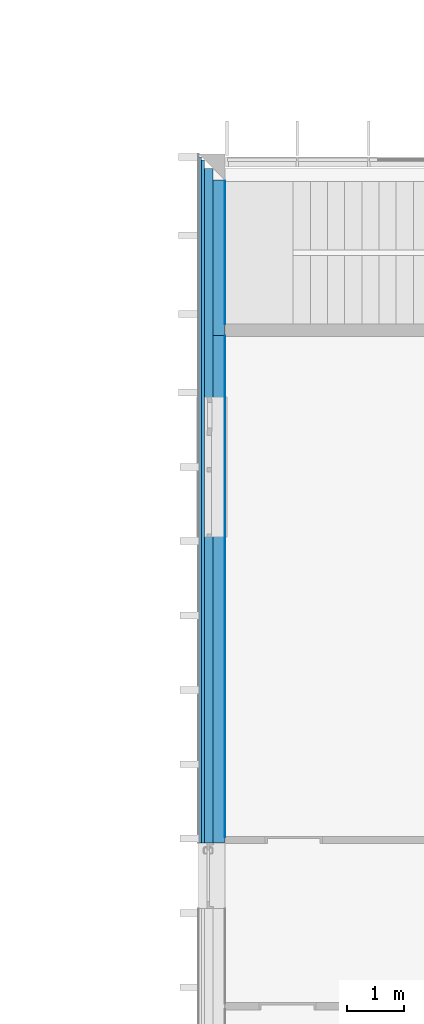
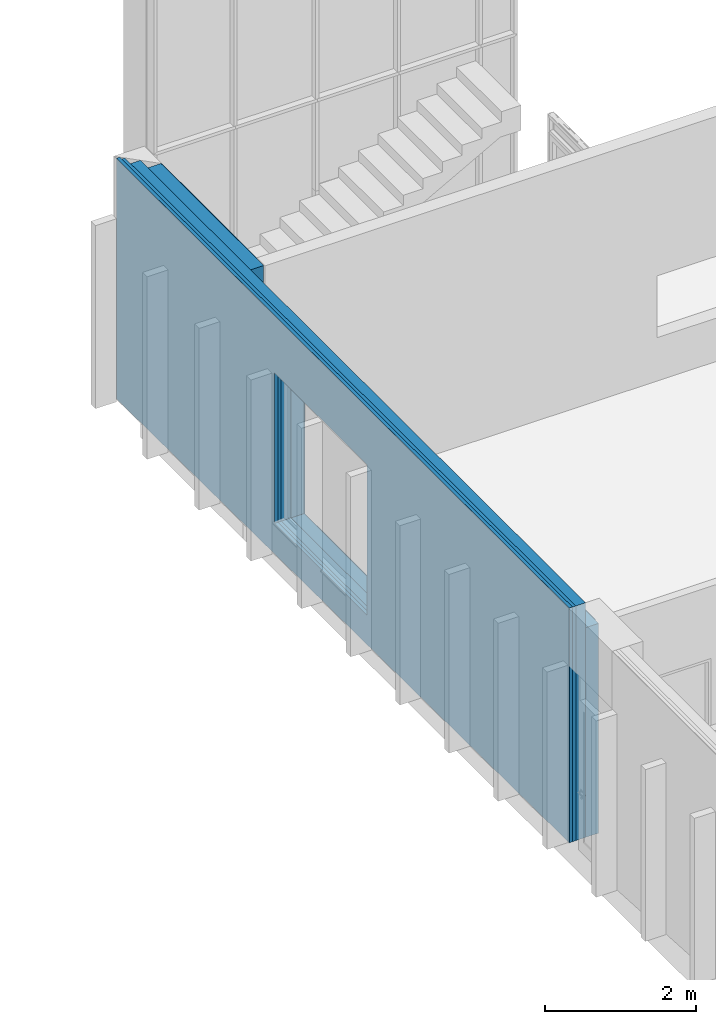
# One storey, part 63 of 65: 5 building element parts, 1 opening, 1 element without a shape of its own.
"""IFC2X3 building model written with IfcOpenShell, lengths in millimetres."""

import ifcopenshell
import ifcopenshell.guid

model = None  # the IFC model being written
_history = None  # IfcOwnerHistory: only IFC2X3 demands one
_inside = {}  # id of a spatial element -> (the spatial element, [elements in it])
_under = {}  # id of a project, library or spatial element -> (it, [spatial elements below it])
_declared = {}  # id of a project -> (the project, [libraries it declares])
_typed = {}  # id of a type object -> (the type object, [elements of that type])
_made_of = {}  # id of a material, layer set ... -> (it, [elements and type objects made of it])


def new_model(schema):
    """Start an empty IFC model of exactly this schema.

    Asked for "IFC4X3", IfcOpenShell would pick the latest addendum, in which some entities
    have other attributes; the version numbers below select the first issue.
    IFC2X3 requires an IfcOwnerHistory on every rooted entity: one is made here for all.
    """
    global model, _history
    if schema == "IFC4X3":
        model = ifcopenshell.file(schema_version=(4, 3, 0, 0))
    else:
        model = ifcopenshell.file(schema=schema)
    _inside.clear()
    _under.clear()
    _declared.clear()
    _typed.clear()
    _made_of.clear()
    _history = None
    if model.schema == "IFC2X3":
        org = make("IfcOrganization", Name="unknown")
        user = make(
            "IfcPersonAndOrganization",
            ThePerson=make("IfcPerson", FamilyName="unknown"),
            TheOrganization=org,
        )
        app = make(
            "IfcApplication",
            ApplicationDeveloper=org,
            Version="unknown",
            ApplicationFullName="unknown",
            ApplicationIdentifier="unknown",
        )
        _history = make(
            "IfcOwnerHistory",
            OwningUser=user,
            OwningApplication=app,
            ChangeAction="ADDED",
            CreationDate=0,
        )
    return model


def make(cls, **values):
    """One entity of the class cls with the attributes given. An attribute that is None is left unset."""
    return model.create_entity(
        cls, **{name: value for name, value in values.items() if value is not None}
    )


def entity(cls, *values):
    """Any entity or typed value of the class cls, its attributes in the order of the schema. None: left unset."""
    e = model.create_entity(cls)
    for i, value in enumerate(values):
        if value is not None:
            e[i] = value
    return e


def rooted(cls, **values):
    """An entity with a GlobalId (a new one), such as an element, a storey or a relation."""
    return make(cls, GlobalId=ifcopenshell.guid.new(), OwnerHistory=_history, **values)


def si_unit(unit_type, name, prefix=None):
    """IfcSIUnit, for example si_unit("LENGTHUNIT", "METRE", prefix="MILLI")."""
    return make("IfcSIUnit", UnitType=unit_type, Prefix=prefix, Name=name)


def converted_unit(unit_type, name, factor, base, dimensions=None, offset=None):
    """IfcConversionBasedUnit, such as the inch: factor (a typed value) times the base unit."""
    return make(
        "IfcConversionBasedUnit"
        if offset is None
        else "IfcConversionBasedUnitWithOffset",
        ConversionOffset=offset,
        Dimensions=None
        if dimensions is None
        else entity("IfcDimensionalExponents", *dimensions),
        UnitType=unit_type,
        Name=name,
        ConversionFactor=make(
            "IfcMeasureWithUnit", ValueComponent=factor, UnitComponent=base
        ),
    )


def derived_unit(unit_type, elements):
    """IfcDerivedUnit: a product of units, each with its exponent."""
    return make(
        "IfcDerivedUnit",
        Elements=[
            make("IfcDerivedUnitElement", Unit=unit, Exponent=power)
            for unit, power in elements
        ],
        UnitType=unit_type,
    )


def money_unit(currency):
    """IfcMonetaryUnit."""
    return make("IfcMonetaryUnit", Currency=currency)


def assignment(units):
    """IfcUnitAssignment: the units of a project."""
    return None if units is None else make("IfcUnitAssignment", Units=units)


def point(xyz):
    """IfcCartesianPoint."""
    return None if xyz is None else make("IfcCartesianPoint", Coordinates=xyz)


def direction(xyz):
    """IfcDirection."""
    return None if xyz is None else make("IfcDirection", DirectionRatios=xyz)


def frame(location, z_axis=None, x_axis=None):
    """IfcAxis2Placement3D, a coordinate frame: its origin and axes. An axis left out is left unset."""
    return make(
        "IfcAxis2Placement3D",
        Location=point(location),
        Axis=direction(z_axis),
        RefDirection=direction(x_axis),
    )


def frame_2d(location, x_axis=None):
    """IfcAxis2Placement2D, a coordinate frame in the plane: its origin and x axis."""
    return make(
        "IfcAxis2Placement2D", Location=point(location), RefDirection=direction(x_axis)
    )


def origin_with_axes():
    """The frame at (0, 0, 0) with the z axis (0, 0, 1) and the x axis (1, 0, 0) written out."""
    return frame((0.0, 0.0, 0.0), z_axis=(0.0, 0.0, 1.0), x_axis=(1.0, 0.0, 0.0))


def origin_2d_with_axis():
    """The frame at (0, 0) in the plane with the x axis (1, 0) written out."""
    return frame_2d((0.0, 0.0), x_axis=(1.0, 0.0))


def place(relative_to, where):
    """IfcLocalPlacement: puts the frame where relative to a parent placement (None: the world)."""
    return make(
        "IfcLocalPlacement", PlacementRelTo=relative_to, RelativePlacement=where
    )


def context(
    kind, dimensions, precision=None, world=None, true_north=None, identifier=None
):
    """IfcGeometricRepresentationContext, for example the 3D "Model" context."""
    return make(
        "IfcGeometricRepresentationContext",
        ContextIdentifier=identifier,
        ContextType=kind,
        CoordinateSpaceDimension=dimensions,
        Precision=precision,
        WorldCoordinateSystem=world,
        TrueNorth=true_north,
    )


def subcontext(parent, identifier, kind, view, scale=None):
    """IfcGeometricRepresentationSubContext, for example "Body" below "Model"."""
    return make(
        "IfcGeometricRepresentationSubContext",
        ContextIdentifier=identifier,
        ContextType=kind,
        ParentContext=parent,
        TargetScale=scale,
        TargetView=view,
    )


def project(units=None, contexts=None):
    """IfcProject with its units and contexts."""
    return rooted(
        "IfcProject",
        Name="project",
        RepresentationContexts=contexts,
        UnitsInContext=assignment(units),
    )


def spatial(cls, under=None, at=None, **own):
    """A site, building, storey or space (cls), placed at a placement, below another one or the project."""
    s = rooted(cls, ObjectPlacement=at, **own)
    if under is not None:
        _under.setdefault(under.id(), (under, []))[1].append(s)
    return s


def polyline(points):
    """IfcPolyline through the points."""
    return make("IfcPolyline", Points=[point(p) for p in points])


def profile(cls, at=None, kind="AREA", **sizes):
    """A parametric profile (cls). Its sizes go by their IFC names, for example OverallWidth=200.0."""
    return make(cls, ProfileType=kind, Position=at, **sizes)


def rectangle(**sizes):
    """IfcRectangleProfileDef."""
    return profile("IfcRectangleProfileDef", **sizes)


def outline(outer, holes=None, kind="AREA"):
    """IfcArbitraryClosedProfileDef: a profile drawn as a closed curve; with holes, ...WithVoids."""
    if holes is None:
        return make("IfcArbitraryClosedProfileDef", ProfileType=kind, OuterCurve=outer)
    return make(
        "IfcArbitraryProfileDefWithVoids",
        ProfileType=kind,
        OuterCurve=outer,
        InnerCurves=holes,
    )


def extrude(swept, where, along, depth):
    """IfcExtrudedAreaSolid: the profile swept, set in the frame where, extruded along a direction by depth."""
    return make(
        "IfcExtrudedAreaSolid",
        SweptArea=swept,
        Position=where,
        ExtrudedDirection=direction(along),
        Depth=depth,
    )


def boolean(op, a, b):
    """IfcBooleanResult of two solids."""
    return make("IfcBooleanResult", Operator=op, FirstOperand=a, SecondOperand=b)


def faces_of(points, faces, orient=None, outer=None):
    """IfcFace entities. A face is a list of loops; a loop is a list of indices into points, from 0.

    orient and outer hold one flag for each loop. By default every Orientation is true, the
    first loop of a face is its IfcFaceOuterBound and the others are IfcFaceBound.
    """
    made = []
    for i, loops in enumerate(faces):
        bounds = []
        for j, loop in enumerate(loops):
            is_outer = j == 0 if outer is None else outer[i][j]
            bounds.append(
                make(
                    "IfcFaceOuterBound" if is_outer else "IfcFaceBound",
                    Bound=make("IfcPolyLoop", Polygon=[points[k] for k in loop]),
                    Orientation=True if orient is None else orient[i][j],
                )
            )
        made.append(make("IfcFace", Bounds=bounds))
    return made


def faceted_brep(points, faces, orient=None, outer=None, voids=None):
    """IfcFacetedBrep: a solid bounded by flat faces; with voids (closed shells), ...WithVoids."""
    shared = [point(p) for p in points]
    hull = make("IfcClosedShell", CfsFaces=faces_of(shared, faces, orient, outer))
    if voids is None:
        return make("IfcFacetedBrep", Outer=hull)
    return make(
        "IfcFacetedBrepWithVoids",
        Outer=hull,
        Voids=[
            make(cls, CfsFaces=faces_of(shared, fs, o, b)) for cls, fs, o, b in voids
        ],
    )


def shape(context_of_items, identifier, shape_type, items):
    """IfcShapeRepresentation: the items that make up one representation, for example the "Body"."""
    return make(
        "IfcShapeRepresentation",
        ContextOfItems=context_of_items,
        RepresentationIdentifier=identifier,
        RepresentationType=shape_type,
        Items=items,
    )


def material(Name=None, Category=None):
    """IfcMaterial."""
    return make("IfcMaterial", Name=Name, Category=Category)


def made_of(thing, what):
    """Note that an element or type object is made of a material, layer set ...; save() writes the relation."""
    if what is not None:
        _made_of.setdefault(what.id(), (what, []))[1].append(thing)
    return thing


def type_object(cls, material=None, **own):
    """A type object (cls), such as IfcWallType, which elements share."""
    return made_of(rooted(cls, **own), material)


def element(
    cls,
    number,
    at=None,
    inside=None,
    cuts=None,
    type_object=None,
    material=None,
    context=None,
    identifier="Body",
    shape_type=None,
    held_by="IfcProductDefinitionShape",
    body=None,
    shapes=None,
    **own,
):
    """One element of the class cls, such as IfcWall. Its Tag is "e" and its number.

    at: its placement. inside: the storey or other place that contains it. cuts: it is an
    opening in that element (IfcRelVoidsElement). A single representation is given by context,
    identifier, shape_type and body (its items); several are given by shapes. held_by: the class
    of the entity that holds the representations. save() writes the other relations.
    """
    e = rooted(cls, Tag="e%d" % number, ObjectPlacement=at, **own)
    if body is not None:
        shapes = [shape(context, identifier, shape_type, body)]
    if shapes is not None:
        e.Representation = make(held_by, Representations=shapes)
    if inside is not None:
        _inside.setdefault(inside.id(), (inside, []))[1].append(e)
    if cuts is not None:
        rooted(
            "IfcRelVoidsElement", RelatingBuildingElement=cuts, RelatedOpeningElement=e
        )
    if type_object is not None:
        _typed.setdefault(type_object.id(), (type_object, []))[1].append(e)
    return made_of(e, material)


def aggregate(whole, parts):
    """IfcRelAggregates: a whole, such as a stair, and the parts it consists of."""
    return rooted("IfcRelAggregates", RelatingObject=whole, RelatedObjects=parts)


def save(model, path):
    """Write the relations noted so far, then the file.

    IfcRelAggregates (storeys below a building ...), IfcRelContainedInSpatialStructure (elements
    in a storey), IfcRelDefinesByType, IfcRelAssociatesMaterial and IfcRelDeclares: one each for
    every whole, place, type object, material and project.
    """
    for whole, parts in _under.values():
        aggregate(whole, parts)
    for where, things in _inside.values():
        rooted(
            "IfcRelContainedInSpatialStructure",
            RelatedElements=things,
            RelatingStructure=where,
        )
    for kind, things in _typed.values():
        rooted("IfcRelDefinesByType", RelatedObjects=things, RelatingType=kind)
    for what, things in _made_of.values():
        rooted("IfcRelAssociatesMaterial", RelatedObjects=things, RelatingMaterial=what)
    for by, libraries in _declared.values():
        rooted("IfcRelDeclares", RelatingContext=by, RelatedDefinitions=libraries)
    model.write(path)


model = new_model("IFC2X3")

# Units and contexts
model_context = context("Model", 3, precision=0.01, world=origin_with_axes(), true_north=direction((0.0, 1.0)))
body_context = subcontext(model_context, "Body", "Model", "MODEL_VIEW")
ifc_project = project(units=[si_unit("LENGTHUNIT", "METRE", prefix="MILLI"), si_unit("AREAUNIT", "SQUARE_METRE"), si_unit("VOLUMEUNIT", "CUBIC_METRE"), converted_unit("PLANEANGLEUNIT", "DEGREE", entity("IfcPlaneAngleMeasure", 0.0174532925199), si_unit("PLANEANGLEUNIT", "RADIAN"), dimensions=[0, 0, 0, 0, 0, 0, 0]), si_unit("SOLIDANGLEUNIT", "STERADIAN"), money_unit("EUR"), converted_unit("TIMEUNIT", "Year", entity("IfcTimeMeasure", 31556926.0), si_unit("TIMEUNIT", "SECOND"), dimensions=[0, 0, 1, 0, 0, 0, 0]), si_unit("MASSUNIT", "GRAM", prefix="KILO"), si_unit("THERMODYNAMICTEMPERATUREUNIT", "DEGREE_CELSIUS"), si_unit("LUMINOUSINTENSITYUNIT", "LUMEN"), si_unit("ENERGYUNIT", "JOULE", prefix="MEGA"), derived_unit("THERMALCONDUCTANCEUNIT", [(si_unit("POWERUNIT", "WATT"), 1), (si_unit("LENGTHUNIT", "METRE"), -1), (si_unit("THERMODYNAMICTEMPERATUREUNIT", "KELVIN"), -1)]), derived_unit("SPECIFICHEATCAPACITYUNIT", [(si_unit("ENERGYUNIT", "JOULE"), 1), (si_unit("MASSUNIT", "GRAM", prefix="KILO"), -1), (si_unit("THERMODYNAMICTEMPERATUREUNIT", "KELVIN"), -1)]), derived_unit("MASSDENSITYUNIT", [(si_unit("MASSUNIT", "GRAM", prefix="KILO"), 1), (si_unit("VOLUMEUNIT", "CUBIC_METRE"), -1)])], contexts=[model_context])

# Site, building, storey
site_placement = place(None, origin_with_axes())
site = spatial("IfcSite", under=ifc_project, at=site_placement, Name="Puškini 31, Narva", CompositionType="ELEMENT")
building_placement = place(site_placement, origin_with_axes())
building = spatial("IfcBuilding", under=site, at=building_placement, Name="Narva Riigigümnaasium", CompositionType="ELEMENT")
storey_placement = place(building_placement, frame((0.0, 0.0, -1320.0), z_axis=(0.0, 0.0, 1.0), x_axis=(1.0, 0.0, 0.0)))
storey = spatial("IfcBuildingStorey", under=building, at=storey_placement, Name="1.korrus -1.32", CompositionType="ELEMENT", Elevation=-1320.0)

# Wall, opening, building element parts
wall_type = type_object("IfcWallType", Name="G-VS-01 468", PredefinedType="NOTDEFINED")
wall_placement = place(storey_placement, frame((22399.9999985, 183110.149991, 0.0), z_axis=(0.0, 0.0, 1.0), x_axis=(0.0, 1.0, 0.0)))
wall = element("IfcWall", 1, at=wall_placement, inside=storey, type_object=wall_type, Name="Välissein")
opening_placement = place(wall_placement, frame((6575.0, 0.0, 600.0), z_axis=(0.0, 0.0, 1.0), x_axis=(1.0, 0.0, 0.0)))
element("IfcOpeningElement", 2, at=opening_placement, cuts=wall, Name="G-A-37", context=body_context, shape_type="SweptSolid", body=[
    extrude(rectangle(XDim=2450.0, YDim=2430.0, at=origin_2d_with_axis()), frame((0.0, 308.0, 1215.0), z_axis=(0.0, 1.0, 0.0), x_axis=(-1.0, 0.0, 0.0)), (0.0, 0.0, -1.0), 786.0),
    extrude(rectangle(XDim=2450.0, YDim=2430.0, at=origin_2d_with_axis()), frame((0.0, 308.0, 1215.0), z_axis=(0.0, -1.0, 0.0), x_axis=(-1.0, 0.0, 0.0)), (0.0, 0.0, -1.0), 618.0),
])
ifc_material_1 = material(Name="Salto-siseviimistlus-seinad")
building_element_part_1_placement = place(wall_placement, origin_with_axes())
building_element_part_1 = element("IfcBuildingElementPart", 3, at=building_element_part_1_placement, material=ifc_material_1, Name="Salto-siseviimistlus-seinad", context=body_context, shape_type="CSG", body=[
    boolean("DIFFERENCE", boolean("DIFFERENCE", boolean("DIFFERENCE", boolean("DIFFERENCE", boolean("DIFFERENCE", boolean("DIFFERENCE", boolean("DIFFERENCE", extrude(outline(polyline([(0.0, -10.0), (12047.8500085, -10.0), (12047.8500085, 0.0), (0.0, 0.0), (0.0, -10.0)])), origin_with_axes(), (0.0, 0.0, 1.0), 3960.0), faceted_brep([(11579.8500085, 1.96511962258e-06, 73.9043257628), (11579.8500085, 0.0, 3960.0), (12047.8500085, 0.0, 3960.0), (12047.8500085, 0.0, 0.0), (0.0, 0.0, 0.0), (0.0, 0.0, 3960.0), (9069.85000856, 0.0, 3960.0), (9069.85000856, 1.50284762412e-06, 93.7241299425), (100.0, 8.56701376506e-08, 164.553082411), (8869.85000856, 1.46910750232e-06, 95.3033972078), (8869.85000856, 1.53953294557e-07, 3555.0), (100.0, 1.50116008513e-06, 3555.0), (11579.8500085, -10.0, 73.9043257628), (11579.8500085, -10.0, 3960.0), (12047.8500085, -10.0, 3960.0), (12047.8500085, -10.0, 0.0), (0.0, -10.0, 0.0), (0.0, -10.0, 3960.0), (9069.85000856, -10.0, 3960.0), (9069.85000856, -10.0, 93.7241299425), (100.0, -10.0, 164.553082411), (8869.85000856, -10.0, 95.3033972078), (8869.85000856, -10.0, 3555.0), (100.0, -10.0, 3555.0)], [[[0, 1, 2, 3, 4, 5, 6, 7], [8, 9, 10, 11]], [[12, 13, 1, 0]], [[1, 13, 14, 2]], [[14, 15, 3, 2]], [[15, 16, 4, 3]], [[5, 4, 16, 17]], [[18, 6, 5, 17]], [[6, 18, 19, 7]], [[19, 12, 0, 7]], [[20, 21, 9, 8]], [[21, 22, 10, 9]], [[22, 23, 11, 10]], [[23, 20, 8, 11]], [[19, 18, 17, 16, 15, 14, 13, 12], [20, 23, 22, 21]]])), faceted_brep([(0.0, 0.0, 3555.0), (8869.85000856, 1.53953294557e-07, 3555.0), (8869.85000856, 0.0, 3959.99999949), (0.0, 0.0, 3960.0), (0.0, 199.999955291, 3555.0), (8869.85000856, 199.999955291, 3555.0), (8869.85000856, 199.999955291, 3960.0), (0.0, 200.0, 3960.0)], [[[0, 1, 2, 3]], [[0, 4, 5, 1]], [[6, 2, 1, 5]], [[2, 6, 7, 3]], [[4, 0, 3, 7]], [[5, 4, 7, 6]]])), faceted_brep([(11589.8500085, 200.0, 3960.0), (11589.8500085, 0.0, 3960.0), (12047.8500085, 0.0, 3960.0), (12047.8500085, 200.0, 3960.0), (11589.8500085, 1.96515870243e-06, 73.8253623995), (11589.8500085, 199.999999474, 73.8253623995), (100.0, 8.56701376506e-08, 164.553082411), (0.0, 0.0, 165.342716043), (0.0, 0.0, 0.0), (12047.8500085, 0.0, 0.0), (11579.8500085, 1.96511962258e-06, 73.9043257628), (9069.85000856, 1.50284762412e-06, 93.7241299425), (8869.85000856, 1.46910750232e-06, 95.3033972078), (12047.8500085, 200.0, 0.0), (0.0, 200.0, 0.0), (0.0, 199.999997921, 165.342716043)], [[[0, 1, 2, 3]], [[4, 1, 0, 5]], [[6, 7, 8, 9, 2, 1, 4, 10, 11, 12]], [[2, 9, 13, 3]], [[5, 0, 3, 13, 14, 15]], [[10, 4, 5, 15, 7, 6, 12, 11]], [[7, 15, 14, 8]], [[9, 8, 14, 13]]])), faceted_brep([(11789.8500085, 350.0, 3960.0), (11789.8500085, 200.0, 3960.0), (12047.8500085, 200.0, 3960.0), (12047.8500085, 350.0, 3960.0), (11789.8500085, 199.999999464, 72.2460951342), (11789.8500085, 350.0, 72.2460951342), (11589.8500085, 199.999999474, 73.8253623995), (0.0, 199.999997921, 165.342716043), (0.0, 200.0, 0.0), (12047.8500085, 200.0, 0.0), (12047.8500085, 350.0, 0.0), (0.0, 350.0, 0.0), (0.0, 350.0, 165.342716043)], [[[0, 1, 2, 3]], [[4, 1, 0, 5]], [[6, 7, 8, 9, 2, 1, 4]], [[2, 9, 10, 3]], [[5, 0, 3, 10, 11, 12]], [[6, 4, 5, 12, 7]], [[7, 12, 11, 8]], [[9, 8, 11, 10]]])), faceted_brep([(11939.8500085, 400.0, 3960.0), (11939.8500085, 350.0, 3960.0), (12047.8500085, 350.0, 3960.0), (12047.8500085, 400.0, 3960.0), (11939.8500085, 350.0, 71.0616446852), (11939.8500085, 399.999996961, 71.0616446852), (11789.8500085, 350.0, 72.2460951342), (0.0, 350.0, 165.342716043), (0.0, 350.0, 0.0), (12047.8500085, 350.0, 0.0), (12047.8500085, 400.0, 0.0), (0.0, 400.0, 0.0), (0.0, 400.0, 165.342716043)], [[[0, 1, 2, 3]], [[4, 1, 0, 5]], [[6, 7, 8, 9, 2, 1, 4]], [[2, 9, 10, 3]], [[5, 0, 3, 10, 11, 12]], [[6, 4, 5, 12, 7]], [[7, 12, 11, 8]], [[9, 8, 11, 10]]])), faceted_brep([(11989.8500085, 450.0, 3960.0), (11989.8500085, 400.0, 3960.0), (12047.8500085, 400.0, 3960.0), (12047.8500085, 450.0, 3960.0), (11989.8500085, 399.99999696, 70.6668278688), (11989.8500085, 449.999999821, 70.6668278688), (0.0, 400.0, 165.342716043), (0.0, 400.0, 0.0), (12047.8500085, 400.0, 0.0), (12047.8500085, 450.0, 0.0), (0.0, 450.0, 0.0), (0.0, 450.0, 165.342716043)], [[[0, 1, 2, 3]], [[4, 1, 0, 5]], [[4, 6, 7, 8, 2, 1]], [[2, 8, 9, 3]], [[5, 0, 3, 9, 10, 11]], [[6, 4, 5, 11]], [[6, 11, 10, 7]], [[8, 7, 10, 9]]])), faceted_brep([(12039.8500085, 458.0, 3960.0), (12039.8500085, 450.0, 3960.0), (12047.8500085, 450.0, 3960.0), (12047.8500085, 458.0, 3960.0), (12039.8500085, 449.999999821, 70.2720110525), (12039.8500085, 458.0, 70.2720110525), (0.0, 450.0, 165.342716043), (0.0, 450.0, 0.0), (12047.8500085, 450.0, 0.0), (12047.8500085, 458.0, 0.0), (0.0, 458.0, 0.0), (0.0, 458.0, 165.342716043)], [[[0, 1, 2, 3]], [[4, 1, 0, 5]], [[4, 6, 7, 8, 2, 1]], [[2, 8, 9, 3]], [[5, 0, 3, 9, 10, 11]], [[6, 4, 5, 11]], [[6, 11, 10, 7]], [[8, 7, 10, 9]]])),
])
ifc_material_2 = material(Name="Betoon element")
building_element_part_2_placement = place(wall_placement, origin_with_axes())
building_element_part_2 = element("IfcBuildingElementPart", 4, at=building_element_part_2_placement, material=ifc_material_2, Name="Betoon element", context=body_context, shape_type="CSG", body=[
    boolean("DIFFERENCE", boolean("DIFFERENCE", boolean("DIFFERENCE", boolean("DIFFERENCE", boolean("DIFFERENCE", boolean("DIFFERENCE", boolean("DIFFERENCE", extrude(outline(polyline([(0.0, 0.0), (12047.8500085, 0.0), (12047.8500085, 200.0), (0.0, 200.0), (0.0, 0.0)])), origin_with_axes(), (0.0, 0.0, 1.0), 3960.0), faceted_brep([(11579.8500085, 1.96511962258e-06, 73.9043257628), (11579.8500085, 0.0, 3960.0), (12047.8500085, 0.0, 3960.0), (12047.8500085, 0.0, 0.0), (0.0, 0.0, 0.0), (0.0, 0.0, 3960.0), (9069.85000856, 0.0, 3960.0), (9069.85000856, 1.50284762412e-06, 93.7241299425), (100.0, 8.56701376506e-08, 164.553082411), (8869.85000856, 1.46910750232e-06, 95.3033972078), (8869.85000856, 1.53953294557e-07, 3555.0), (100.0, 1.50116008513e-06, 3555.0), (11579.8500085, -10.0, 73.9043257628), (11579.8500085, -10.0, 3960.0), (12047.8500085, -10.0, 3960.0), (12047.8500085, -10.0, 0.0), (0.0, -10.0, 0.0), (0.0, -10.0, 3960.0), (9069.85000856, -10.0, 3960.0), (9069.85000856, -10.0, 93.7241299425), (100.0, -10.0, 164.553082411), (8869.85000856, -10.0, 95.3033972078), (8869.85000856, -10.0, 3555.0), (100.0, -10.0, 3555.0)], [[[0, 1, 2, 3, 4, 5, 6, 7], [8, 9, 10, 11]], [[12, 13, 1, 0]], [[1, 13, 14, 2]], [[14, 15, 3, 2]], [[15, 16, 4, 3]], [[5, 4, 16, 17]], [[18, 6, 5, 17]], [[6, 18, 19, 7]], [[19, 12, 0, 7]], [[20, 21, 9, 8]], [[21, 22, 10, 9]], [[22, 23, 11, 10]], [[23, 20, 8, 11]], [[19, 18, 17, 16, 15, 14, 13, 12], [20, 23, 22, 21]]])), faceted_brep([(0.0, 0.0, 3555.0), (8869.85000856, 1.53953294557e-07, 3555.0), (8869.85000856, 0.0, 3959.99999949), (0.0, 0.0, 3960.0), (0.0, 199.999955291, 3555.0), (8869.85000856, 199.999955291, 3555.0), (8869.85000856, 199.999955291, 3960.0), (0.0, 200.0, 3960.0)], [[[0, 1, 2, 3]], [[0, 4, 5, 1]], [[6, 2, 1, 5]], [[2, 6, 7, 3]], [[4, 0, 3, 7]], [[5, 4, 7, 6]]])), faceted_brep([(11589.8500085, 200.0, 3960.0), (11589.8500085, 0.0, 3960.0), (12047.8500085, 0.0, 3960.0), (12047.8500085, 200.0, 3960.0), (11589.8500085, 1.96515870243e-06, 73.8253623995), (11589.8500085, 199.999999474, 73.8253623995), (100.0, 8.56701376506e-08, 164.553082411), (0.0, 0.0, 165.342716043), (0.0, 0.0, 0.0), (12047.8500085, 0.0, 0.0), (11579.8500085, 1.96511962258e-06, 73.9043257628), (9069.85000856, 1.50284762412e-06, 93.7241299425), (8869.85000856, 1.46910750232e-06, 95.3033972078), (12047.8500085, 200.0, 0.0), (0.0, 200.0, 0.0), (0.0, 199.999997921, 165.342716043)], [[[0, 1, 2, 3]], [[4, 1, 0, 5]], [[6, 7, 8, 9, 2, 1, 4, 10, 11, 12]], [[2, 9, 13, 3]], [[5, 0, 3, 13, 14, 15]], [[10, 4, 5, 15, 7, 6, 12, 11]], [[7, 15, 14, 8]], [[9, 8, 14, 13]]])), faceted_brep([(11789.8500085, 350.0, 3960.0), (11789.8500085, 200.0, 3960.0), (12047.8500085, 200.0, 3960.0), (12047.8500085, 350.0, 3960.0), (11789.8500085, 199.999999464, 72.2460951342), (11789.8500085, 350.0, 72.2460951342), (11589.8500085, 199.999999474, 73.8253623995), (0.0, 199.999997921, 165.342716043), (0.0, 200.0, 0.0), (12047.8500085, 200.0, 0.0), (12047.8500085, 350.0, 0.0), (0.0, 350.0, 0.0), (0.0, 350.0, 165.342716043)], [[[0, 1, 2, 3]], [[4, 1, 0, 5]], [[6, 7, 8, 9, 2, 1, 4]], [[2, 9, 10, 3]], [[5, 0, 3, 10, 11, 12]], [[6, 4, 5, 12, 7]], [[7, 12, 11, 8]], [[9, 8, 11, 10]]])), faceted_brep([(11939.8500085, 400.0, 3960.0), (11939.8500085, 350.0, 3960.0), (12047.8500085, 350.0, 3960.0), (12047.8500085, 400.0, 3960.0), (11939.8500085, 350.0, 71.0616446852), (11939.8500085, 399.999996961, 71.0616446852), (11789.8500085, 350.0, 72.2460951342), (0.0, 350.0, 165.342716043), (0.0, 350.0, 0.0), (12047.8500085, 350.0, 0.0), (12047.8500085, 400.0, 0.0), (0.0, 400.0, 0.0), (0.0, 400.0, 165.342716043)], [[[0, 1, 2, 3]], [[4, 1, 0, 5]], [[6, 7, 8, 9, 2, 1, 4]], [[2, 9, 10, 3]], [[5, 0, 3, 10, 11, 12]], [[6, 4, 5, 12, 7]], [[7, 12, 11, 8]], [[9, 8, 11, 10]]])), faceted_brep([(11989.8500085, 450.0, 3960.0), (11989.8500085, 400.0, 3960.0), (12047.8500085, 400.0, 3960.0), (12047.8500085, 450.0, 3960.0), (11989.8500085, 399.99999696, 70.6668278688), (11989.8500085, 449.999999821, 70.6668278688), (0.0, 400.0, 165.342716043), (0.0, 400.0, 0.0), (12047.8500085, 400.0, 0.0), (12047.8500085, 450.0, 0.0), (0.0, 450.0, 0.0), (0.0, 450.0, 165.342716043)], [[[0, 1, 2, 3]], [[4, 1, 0, 5]], [[4, 6, 7, 8, 2, 1]], [[2, 8, 9, 3]], [[5, 0, 3, 9, 10, 11]], [[6, 4, 5, 11]], [[6, 11, 10, 7]], [[8, 7, 10, 9]]])), faceted_brep([(12039.8500085, 458.0, 3960.0), (12039.8500085, 450.0, 3960.0), (12047.8500085, 450.0, 3960.0), (12047.8500085, 458.0, 3960.0), (12039.8500085, 449.999999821, 70.2720110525), (12039.8500085, 458.0, 70.2720110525), (0.0, 450.0, 165.342716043), (0.0, 450.0, 0.0), (12047.8500085, 450.0, 0.0), (12047.8500085, 458.0, 0.0), (0.0, 458.0, 0.0), (0.0, 458.0, 165.342716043)], [[[0, 1, 2, 3]], [[4, 1, 0, 5]], [[4, 6, 7, 8, 2, 1]], [[2, 8, 9, 3]], [[5, 0, 3, 9, 10, 11]], [[6, 4, 5, 11]], [[6, 11, 10, 7]], [[8, 7, 10, 9]]])),
])
ifc_material_3 = material(Name="Salto-PIR soojustus")
building_element_part_3_placement = place(wall_placement, origin_with_axes())
building_element_part_3 = element("IfcBuildingElementPart", 5, at=building_element_part_3_placement, material=ifc_material_3, Name="Salto-PIR soojustus", context=body_context, shape_type="CSG", body=[
    boolean("DIFFERENCE", boolean("DIFFERENCE", boolean("DIFFERENCE", boolean("DIFFERENCE", boolean("DIFFERENCE", boolean("DIFFERENCE", boolean("DIFFERENCE", extrude(outline(polyline([(0.0, 200.0), (12047.8500085, 200.0), (12047.8500085, 350.0), (0.0, 350.0), (0.0, 200.0)])), origin_with_axes(), (0.0, 0.0, 1.0), 3960.0), faceted_brep([(11579.8500085, 1.96511962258e-06, 73.9043257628), (11579.8500085, 0.0, 3960.0), (12047.8500085, 0.0, 3960.0), (12047.8500085, 0.0, 0.0), (0.0, 0.0, 0.0), (0.0, 0.0, 3960.0), (9069.85000856, 0.0, 3960.0), (9069.85000856, 1.50284762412e-06, 93.7241299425), (100.0, 8.56701376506e-08, 164.553082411), (8869.85000856, 1.46910750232e-06, 95.3033972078), (8869.85000856, 1.53953294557e-07, 3555.0), (100.0, 1.50116008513e-06, 3555.0), (11579.8500085, -10.0, 73.9043257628), (11579.8500085, -10.0, 3960.0), (12047.8500085, -10.0, 3960.0), (12047.8500085, -10.0, 0.0), (0.0, -10.0, 0.0), (0.0, -10.0, 3960.0), (9069.85000856, -10.0, 3960.0), (9069.85000856, -10.0, 93.7241299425), (100.0, -10.0, 164.553082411), (8869.85000856, -10.0, 95.3033972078), (8869.85000856, -10.0, 3555.0), (100.0, -10.0, 3555.0)], [[[0, 1, 2, 3, 4, 5, 6, 7], [8, 9, 10, 11]], [[12, 13, 1, 0]], [[1, 13, 14, 2]], [[14, 15, 3, 2]], [[15, 16, 4, 3]], [[5, 4, 16, 17]], [[18, 6, 5, 17]], [[6, 18, 19, 7]], [[19, 12, 0, 7]], [[20, 21, 9, 8]], [[21, 22, 10, 9]], [[22, 23, 11, 10]], [[23, 20, 8, 11]], [[19, 18, 17, 16, 15, 14, 13, 12], [20, 23, 22, 21]]])), faceted_brep([(0.0, 0.0, 3555.0), (8869.85000856, 1.53953294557e-07, 3555.0), (8869.85000856, 0.0, 3959.99999949), (0.0, 0.0, 3960.0), (0.0, 199.999955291, 3555.0), (8869.85000856, 199.999955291, 3555.0), (8869.85000856, 199.999955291, 3960.0), (0.0, 200.0, 3960.0)], [[[0, 1, 2, 3]], [[0, 4, 5, 1]], [[6, 2, 1, 5]], [[2, 6, 7, 3]], [[4, 0, 3, 7]], [[5, 4, 7, 6]]])), faceted_brep([(11589.8500085, 200.0, 3960.0), (11589.8500085, 0.0, 3960.0), (12047.8500085, 0.0, 3960.0), (12047.8500085, 200.0, 3960.0), (11589.8500085, 1.96515870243e-06, 73.8253623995), (11589.8500085, 199.999999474, 73.8253623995), (100.0, 8.56701376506e-08, 164.553082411), (0.0, 0.0, 165.342716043), (0.0, 0.0, 0.0), (12047.8500085, 0.0, 0.0), (11579.8500085, 1.96511962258e-06, 73.9043257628), (9069.85000856, 1.50284762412e-06, 93.7241299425), (8869.85000856, 1.46910750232e-06, 95.3033972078), (12047.8500085, 200.0, 0.0), (0.0, 200.0, 0.0), (0.0, 199.999997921, 165.342716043)], [[[0, 1, 2, 3]], [[4, 1, 0, 5]], [[6, 7, 8, 9, 2, 1, 4, 10, 11, 12]], [[2, 9, 13, 3]], [[5, 0, 3, 13, 14, 15]], [[10, 4, 5, 15, 7, 6, 12, 11]], [[7, 15, 14, 8]], [[9, 8, 14, 13]]])), faceted_brep([(11789.8500085, 350.0, 3960.0), (11789.8500085, 200.0, 3960.0), (12047.8500085, 200.0, 3960.0), (12047.8500085, 350.0, 3960.0), (11789.8500085, 199.999999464, 72.2460951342), (11789.8500085, 350.0, 72.2460951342), (11589.8500085, 199.999999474, 73.8253623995), (0.0, 199.999997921, 165.342716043), (0.0, 200.0, 0.0), (12047.8500085, 200.0, 0.0), (12047.8500085, 350.0, 0.0), (0.0, 350.0, 0.0), (0.0, 350.0, 165.342716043)], [[[0, 1, 2, 3]], [[4, 1, 0, 5]], [[6, 7, 8, 9, 2, 1, 4]], [[2, 9, 10, 3]], [[5, 0, 3, 10, 11, 12]], [[6, 4, 5, 12, 7]], [[7, 12, 11, 8]], [[9, 8, 11, 10]]])), faceted_brep([(11939.8500085, 400.0, 3960.0), (11939.8500085, 350.0, 3960.0), (12047.8500085, 350.0, 3960.0), (12047.8500085, 400.0, 3960.0), (11939.8500085, 350.0, 71.0616446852), (11939.8500085, 399.999996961, 71.0616446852), (11789.8500085, 350.0, 72.2460951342), (0.0, 350.0, 165.342716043), (0.0, 350.0, 0.0), (12047.8500085, 350.0, 0.0), (12047.8500085, 400.0, 0.0), (0.0, 400.0, 0.0), (0.0, 400.0, 165.342716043)], [[[0, 1, 2, 3]], [[4, 1, 0, 5]], [[6, 7, 8, 9, 2, 1, 4]], [[2, 9, 10, 3]], [[5, 0, 3, 10, 11, 12]], [[6, 4, 5, 12, 7]], [[7, 12, 11, 8]], [[9, 8, 11, 10]]])), faceted_brep([(11989.8500085, 450.0, 3960.0), (11989.8500085, 400.0, 3960.0), (12047.8500085, 400.0, 3960.0), (12047.8500085, 450.0, 3960.0), (11989.8500085, 399.99999696, 70.6668278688), (11989.8500085, 449.999999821, 70.6668278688), (0.0, 400.0, 165.342716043), (0.0, 400.0, 0.0), (12047.8500085, 400.0, 0.0), (12047.8500085, 450.0, 0.0), (0.0, 450.0, 0.0), (0.0, 450.0, 165.342716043)], [[[0, 1, 2, 3]], [[4, 1, 0, 5]], [[4, 6, 7, 8, 2, 1]], [[2, 8, 9, 3]], [[5, 0, 3, 9, 10, 11]], [[6, 4, 5, 11]], [[6, 11, 10, 7]], [[8, 7, 10, 9]]])), faceted_brep([(12039.8500085, 458.0, 3960.0), (12039.8500085, 450.0, 3960.0), (12047.8500085, 450.0, 3960.0), (12047.8500085, 458.0, 3960.0), (12039.8500085, 449.999999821, 70.2720110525), (12039.8500085, 458.0, 70.2720110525), (0.0, 450.0, 165.342716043), (0.0, 450.0, 0.0), (12047.8500085, 450.0, 0.0), (12047.8500085, 458.0, 0.0), (0.0, 458.0, 0.0), (0.0, 458.0, 165.342716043)], [[[0, 1, 2, 3]], [[4, 1, 0, 5]], [[4, 6, 7, 8, 2, 1]], [[2, 8, 9, 3]], [[5, 0, 3, 9, 10, 11]], [[6, 4, 5, 11]], [[6, 11, 10, 7]], [[8, 7, 10, 9]]])),
])
building_element_part_4_placement = place(wall_placement, origin_with_axes())
building_element_part_4 = element("IfcBuildingElementPart", 6, at=building_element_part_4_placement, material=ifc_material_3, Name="Salto-PIR soojustus", context=body_context, shape_type="CSG", body=[
    boolean("DIFFERENCE", boolean("DIFFERENCE", boolean("DIFFERENCE", boolean("DIFFERENCE", boolean("DIFFERENCE", boolean("DIFFERENCE", boolean("DIFFERENCE", extrude(outline(polyline([(0.0, 350.0), (12047.8500085, 350.0), (12047.8500085, 400.0), (0.0, 400.0), (0.0, 350.0)])), origin_with_axes(), (0.0, 0.0, 1.0), 3960.0), faceted_brep([(11579.8500085, 1.96511962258e-06, 73.9043257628), (11579.8500085, 0.0, 3960.0), (12047.8500085, 0.0, 3960.0), (12047.8500085, 0.0, 0.0), (0.0, 0.0, 0.0), (0.0, 0.0, 3960.0), (9069.85000856, 0.0, 3960.0), (9069.85000856, 1.50284762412e-06, 93.7241299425), (100.0, 8.56701376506e-08, 164.553082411), (8869.85000856, 1.46910750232e-06, 95.3033972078), (8869.85000856, 1.53953294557e-07, 3555.0), (100.0, 1.50116008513e-06, 3555.0), (11579.8500085, -10.0, 73.9043257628), (11579.8500085, -10.0, 3960.0), (12047.8500085, -10.0, 3960.0), (12047.8500085, -10.0, 0.0), (0.0, -10.0, 0.0), (0.0, -10.0, 3960.0), (9069.85000856, -10.0, 3960.0), (9069.85000856, -10.0, 93.7241299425), (100.0, -10.0, 164.553082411), (8869.85000856, -10.0, 95.3033972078), (8869.85000856, -10.0, 3555.0), (100.0, -10.0, 3555.0)], [[[0, 1, 2, 3, 4, 5, 6, 7], [8, 9, 10, 11]], [[12, 13, 1, 0]], [[1, 13, 14, 2]], [[14, 15, 3, 2]], [[15, 16, 4, 3]], [[5, 4, 16, 17]], [[18, 6, 5, 17]], [[6, 18, 19, 7]], [[19, 12, 0, 7]], [[20, 21, 9, 8]], [[21, 22, 10, 9]], [[22, 23, 11, 10]], [[23, 20, 8, 11]], [[19, 18, 17, 16, 15, 14, 13, 12], [20, 23, 22, 21]]])), faceted_brep([(0.0, 0.0, 3555.0), (8869.85000856, 1.53953294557e-07, 3555.0), (8869.85000856, 0.0, 3959.99999949), (0.0, 0.0, 3960.0), (0.0, 199.999955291, 3555.0), (8869.85000856, 199.999955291, 3555.0), (8869.85000856, 199.999955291, 3960.0), (0.0, 200.0, 3960.0)], [[[0, 1, 2, 3]], [[0, 4, 5, 1]], [[6, 2, 1, 5]], [[2, 6, 7, 3]], [[4, 0, 3, 7]], [[5, 4, 7, 6]]])), faceted_brep([(11589.8500085, 200.0, 3960.0), (11589.8500085, 0.0, 3960.0), (12047.8500085, 0.0, 3960.0), (12047.8500085, 200.0, 3960.0), (11589.8500085, 1.96515870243e-06, 73.8253623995), (11589.8500085, 199.999999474, 73.8253623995), (100.0, 8.56701376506e-08, 164.553082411), (0.0, 0.0, 165.342716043), (0.0, 0.0, 0.0), (12047.8500085, 0.0, 0.0), (11579.8500085, 1.96511962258e-06, 73.9043257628), (9069.85000856, 1.50284762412e-06, 93.7241299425), (8869.85000856, 1.46910750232e-06, 95.3033972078), (12047.8500085, 200.0, 0.0), (0.0, 200.0, 0.0), (0.0, 199.999997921, 165.342716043)], [[[0, 1, 2, 3]], [[4, 1, 0, 5]], [[6, 7, 8, 9, 2, 1, 4, 10, 11, 12]], [[2, 9, 13, 3]], [[5, 0, 3, 13, 14, 15]], [[10, 4, 5, 15, 7, 6, 12, 11]], [[7, 15, 14, 8]], [[9, 8, 14, 13]]])), faceted_brep([(11789.8500085, 350.0, 3960.0), (11789.8500085, 200.0, 3960.0), (12047.8500085, 200.0, 3960.0), (12047.8500085, 350.0, 3960.0), (11789.8500085, 199.999999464, 72.2460951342), (11789.8500085, 350.0, 72.2460951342), (11589.8500085, 199.999999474, 73.8253623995), (0.0, 199.999997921, 165.342716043), (0.0, 200.0, 0.0), (12047.8500085, 200.0, 0.0), (12047.8500085, 350.0, 0.0), (0.0, 350.0, 0.0), (0.0, 350.0, 165.342716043)], [[[0, 1, 2, 3]], [[4, 1, 0, 5]], [[6, 7, 8, 9, 2, 1, 4]], [[2, 9, 10, 3]], [[5, 0, 3, 10, 11, 12]], [[6, 4, 5, 12, 7]], [[7, 12, 11, 8]], [[9, 8, 11, 10]]])), faceted_brep([(11939.8500085, 400.0, 3960.0), (11939.8500085, 350.0, 3960.0), (12047.8500085, 350.0, 3960.0), (12047.8500085, 400.0, 3960.0), (11939.8500085, 350.0, 71.0616446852), (11939.8500085, 399.999996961, 71.0616446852), (11789.8500085, 350.0, 72.2460951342), (0.0, 350.0, 165.342716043), (0.0, 350.0, 0.0), (12047.8500085, 350.0, 0.0), (12047.8500085, 400.0, 0.0), (0.0, 400.0, 0.0), (0.0, 400.0, 165.342716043)], [[[0, 1, 2, 3]], [[4, 1, 0, 5]], [[6, 7, 8, 9, 2, 1, 4]], [[2, 9, 10, 3]], [[5, 0, 3, 10, 11, 12]], [[6, 4, 5, 12, 7]], [[7, 12, 11, 8]], [[9, 8, 11, 10]]])), faceted_brep([(11989.8500085, 450.0, 3960.0), (11989.8500085, 400.0, 3960.0), (12047.8500085, 400.0, 3960.0), (12047.8500085, 450.0, 3960.0), (11989.8500085, 399.99999696, 70.6668278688), (11989.8500085, 449.999999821, 70.6668278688), (0.0, 400.0, 165.342716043), (0.0, 400.0, 0.0), (12047.8500085, 400.0, 0.0), (12047.8500085, 450.0, 0.0), (0.0, 450.0, 0.0), (0.0, 450.0, 165.342716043)], [[[0, 1, 2, 3]], [[4, 1, 0, 5]], [[4, 6, 7, 8, 2, 1]], [[2, 8, 9, 3]], [[5, 0, 3, 9, 10, 11]], [[6, 4, 5, 11]], [[6, 11, 10, 7]], [[8, 7, 10, 9]]])), faceted_brep([(12039.8500085, 458.0, 3960.0), (12039.8500085, 450.0, 3960.0), (12047.8500085, 450.0, 3960.0), (12047.8500085, 458.0, 3960.0), (12039.8500085, 449.999999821, 70.2720110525), (12039.8500085, 458.0, 70.2720110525), (0.0, 450.0, 165.342716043), (0.0, 450.0, 0.0), (12047.8500085, 450.0, 0.0), (12047.8500085, 458.0, 0.0), (0.0, 458.0, 0.0), (0.0, 458.0, 165.342716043)], [[[0, 1, 2, 3]], [[4, 1, 0, 5]], [[4, 6, 7, 8, 2, 1]], [[2, 8, 9, 3]], [[5, 0, 3, 9, 10, 11]], [[6, 4, 5, 11]], [[6, 11, 10, 7]], [[8, 7, 10, 9]]])),
])
ifc_material_4 = material(Name="Salto-roovitus")
building_element_part_5_placement = place(wall_placement, origin_with_axes())
building_element_part_5 = element("IfcBuildingElementPart", 7, at=building_element_part_5_placement, material=ifc_material_4, Name="Salto-roovitus", context=body_context, shape_type="CSG", body=[
    boolean("DIFFERENCE", boolean("DIFFERENCE", boolean("DIFFERENCE", boolean("DIFFERENCE", boolean("DIFFERENCE", boolean("DIFFERENCE", boolean("DIFFERENCE", extrude(outline(polyline([(0.0, 400.0), (12047.8500085, 400.0), (12047.8500085, 450.0), (0.0, 450.0), (0.0, 400.0)])), origin_with_axes(), (0.0, 0.0, 1.0), 3960.0), faceted_brep([(11579.8500085, 1.96511962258e-06, 73.9043257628), (11579.8500085, 0.0, 3960.0), (12047.8500085, 0.0, 3960.0), (12047.8500085, 0.0, 0.0), (0.0, 0.0, 0.0), (0.0, 0.0, 3960.0), (9069.85000856, 0.0, 3960.0), (9069.85000856, 1.50284762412e-06, 93.7241299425), (100.0, 8.56701376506e-08, 164.553082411), (8869.85000856, 1.46910750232e-06, 95.3033972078), (8869.85000856, 1.53953294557e-07, 3555.0), (100.0, 1.50116008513e-06, 3555.0), (11579.8500085, -10.0, 73.9043257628), (11579.8500085, -10.0, 3960.0), (12047.8500085, -10.0, 3960.0), (12047.8500085, -10.0, 0.0), (0.0, -10.0, 0.0), (0.0, -10.0, 3960.0), (9069.85000856, -10.0, 3960.0), (9069.85000856, -10.0, 93.7241299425), (100.0, -10.0, 164.553082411), (8869.85000856, -10.0, 95.3033972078), (8869.85000856, -10.0, 3555.0), (100.0, -10.0, 3555.0)], [[[0, 1, 2, 3, 4, 5, 6, 7], [8, 9, 10, 11]], [[12, 13, 1, 0]], [[1, 13, 14, 2]], [[14, 15, 3, 2]], [[15, 16, 4, 3]], [[5, 4, 16, 17]], [[18, 6, 5, 17]], [[6, 18, 19, 7]], [[19, 12, 0, 7]], [[20, 21, 9, 8]], [[21, 22, 10, 9]], [[22, 23, 11, 10]], [[23, 20, 8, 11]], [[19, 18, 17, 16, 15, 14, 13, 12], [20, 23, 22, 21]]])), faceted_brep([(0.0, 0.0, 3555.0), (8869.85000856, 1.53953294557e-07, 3555.0), (8869.85000856, 0.0, 3959.99999949), (0.0, 0.0, 3960.0), (0.0, 199.999955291, 3555.0), (8869.85000856, 199.999955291, 3555.0), (8869.85000856, 199.999955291, 3960.0), (0.0, 200.0, 3960.0)], [[[0, 1, 2, 3]], [[0, 4, 5, 1]], [[6, 2, 1, 5]], [[2, 6, 7, 3]], [[4, 0, 3, 7]], [[5, 4, 7, 6]]])), faceted_brep([(11589.8500085, 200.0, 3960.0), (11589.8500085, 0.0, 3960.0), (12047.8500085, 0.0, 3960.0), (12047.8500085, 200.0, 3960.0), (11589.8500085, 1.96515870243e-06, 73.8253623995), (11589.8500085, 199.999999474, 73.8253623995), (100.0, 8.56701376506e-08, 164.553082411), (0.0, 0.0, 165.342716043), (0.0, 0.0, 0.0), (12047.8500085, 0.0, 0.0), (11579.8500085, 1.96511962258e-06, 73.9043257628), (9069.85000856, 1.50284762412e-06, 93.7241299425), (8869.85000856, 1.46910750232e-06, 95.3033972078), (12047.8500085, 200.0, 0.0), (0.0, 200.0, 0.0), (0.0, 199.999997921, 165.342716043)], [[[0, 1, 2, 3]], [[4, 1, 0, 5]], [[6, 7, 8, 9, 2, 1, 4, 10, 11, 12]], [[2, 9, 13, 3]], [[5, 0, 3, 13, 14, 15]], [[10, 4, 5, 15, 7, 6, 12, 11]], [[7, 15, 14, 8]], [[9, 8, 14, 13]]])), faceted_brep([(11789.8500085, 350.0, 3960.0), (11789.8500085, 200.0, 3960.0), (12047.8500085, 200.0, 3960.0), (12047.8500085, 350.0, 3960.0), (11789.8500085, 199.999999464, 72.2460951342), (11789.8500085, 350.0, 72.2460951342), (11589.8500085, 199.999999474, 73.8253623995), (0.0, 199.999997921, 165.342716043), (0.0, 200.0, 0.0), (12047.8500085, 200.0, 0.0), (12047.8500085, 350.0, 0.0), (0.0, 350.0, 0.0), (0.0, 350.0, 165.342716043)], [[[0, 1, 2, 3]], [[4, 1, 0, 5]], [[6, 7, 8, 9, 2, 1, 4]], [[2, 9, 10, 3]], [[5, 0, 3, 10, 11, 12]], [[6, 4, 5, 12, 7]], [[7, 12, 11, 8]], [[9, 8, 11, 10]]])), faceted_brep([(11939.8500085, 400.0, 3960.0), (11939.8500085, 350.0, 3960.0), (12047.8500085, 350.0, 3960.0), (12047.8500085, 400.0, 3960.0), (11939.8500085, 350.0, 71.0616446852), (11939.8500085, 399.999996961, 71.0616446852), (11789.8500085, 350.0, 72.2460951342), (0.0, 350.0, 165.342716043), (0.0, 350.0, 0.0), (12047.8500085, 350.0, 0.0), (12047.8500085, 400.0, 0.0), (0.0, 400.0, 0.0), (0.0, 400.0, 165.342716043)], [[[0, 1, 2, 3]], [[4, 1, 0, 5]], [[6, 7, 8, 9, 2, 1, 4]], [[2, 9, 10, 3]], [[5, 0, 3, 10, 11, 12]], [[6, 4, 5, 12, 7]], [[7, 12, 11, 8]], [[9, 8, 11, 10]]])), faceted_brep([(11989.8500085, 450.0, 3960.0), (11989.8500085, 400.0, 3960.0), (12047.8500085, 400.0, 3960.0), (12047.8500085, 450.0, 3960.0), (11989.8500085, 399.99999696, 70.6668278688), (11989.8500085, 449.999999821, 70.6668278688), (0.0, 400.0, 165.342716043), (0.0, 400.0, 0.0), (12047.8500085, 400.0, 0.0), (12047.8500085, 450.0, 0.0), (0.0, 450.0, 0.0), (0.0, 450.0, 165.342716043)], [[[0, 1, 2, 3]], [[4, 1, 0, 5]], [[4, 6, 7, 8, 2, 1]], [[2, 8, 9, 3]], [[5, 0, 3, 9, 10, 11]], [[6, 4, 5, 11]], [[6, 11, 10, 7]], [[8, 7, 10, 9]]])), faceted_brep([(12039.8500085, 458.0, 3960.0), (12039.8500085, 450.0, 3960.0), (12047.8500085, 450.0, 3960.0), (12047.8500085, 458.0, 3960.0), (12039.8500085, 449.999999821, 70.2720110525), (12039.8500085, 458.0, 70.2720110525), (0.0, 450.0, 165.342716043), (0.0, 450.0, 0.0), (12047.8500085, 450.0, 0.0), (12047.8500085, 458.0, 0.0), (0.0, 458.0, 0.0), (0.0, 458.0, 165.342716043)], [[[0, 1, 2, 3]], [[4, 1, 0, 5]], [[4, 6, 7, 8, 2, 1]], [[2, 8, 9, 3]], [[5, 0, 3, 9, 10, 11]], [[6, 4, 5, 11]], [[6, 11, 10, 7]], [[8, 7, 10, 9]]])),
])
aggregate(wall, [building_element_part_1, building_element_part_2, building_element_part_3, building_element_part_4, building_element_part_5])

save(model, "model.ifc")
